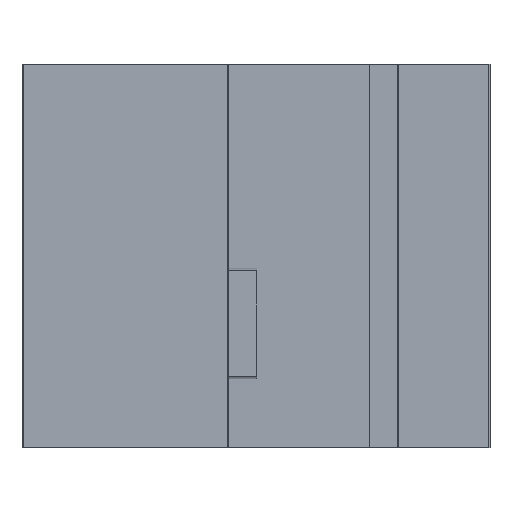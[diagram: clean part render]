
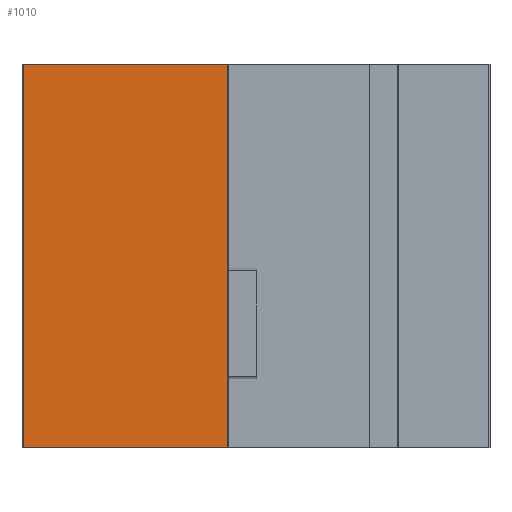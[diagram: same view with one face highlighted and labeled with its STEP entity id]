
A CAD part, front view. The second image highlights one B-rep face of the part: STEP entity #1010.
In plain terms, the highlighted planar face has unit normal (0, -1, 0).
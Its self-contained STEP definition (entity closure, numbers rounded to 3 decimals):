
#662 = EDGE_CURVE( '', #1132, #1310, #1839, .T. );
#726 = EDGE_CURVE( '', #1310, #1366, #1908, .T. );
#1010 = ADVANCED_FACE( '', ( #2224 ), #2225, .T. );
#1132 = VERTEX_POINT( '', #2362 );
#1280 = EDGE_CURVE( '', #1132, #1676, #2537, .T. );
#1310 = VERTEX_POINT( '', #2571 );
#1316 = EDGE_CURVE( '', #1676, #1366, #2580, .T. );
#1366 = VERTEX_POINT( '', #2639 );
#1676 = VERTEX_POINT( '', #2981 );
#1839 = LINE( '', #3173, #3174 );
#1908 = LINE( '', #3274, #3275 );
#2224 = FACE_OUTER_BOUND( '', #3698, .T. );
#2225 = PLANE( '', #3699 );
#2362 = CARTESIAN_POINT( '', ( -25.7, 0., 0. ) );
#2537 = LINE( '', #4123, #4124 );
#2571 = CARTESIAN_POINT( '', ( -25.7, 0., -34. ) );
#2580 = LINE( '', #4182, #4183 );
#2639 = CARTESIAN_POINT( '', ( -7.6, 0., -34. ) );
#2981 = CARTESIAN_POINT( '', ( -7.6, 0., 0. ) );
#3173 = CARTESIAN_POINT( '', ( -25.7, 0., 0. ) );
#3174 = VECTOR( '', #4898, 1. );
#3274 = CARTESIAN_POINT( '', ( -25.7, 0., -34. ) );
#3275 = VECTOR( '', #4960, 1. );
#3698 = EDGE_LOOP( '', ( #5312, #5313, #5314, #5315 ) );
#3699 = AXIS2_PLACEMENT_3D( '', #5316, #5317, #5318 );
#4123 = CARTESIAN_POINT( '', ( -25.7, 0., 0. ) );
#4124 = VECTOR( '', #5720, 1. );
#4182 = CARTESIAN_POINT( '', ( -7.6, 0., 0. ) );
#4183 = VECTOR( '', #5783, 1. );
#4898 = DIRECTION( '', ( 0., 0., -1. ) );
#4960 = DIRECTION( '', ( 1., 0., 0. ) );
#5312 = ORIENTED_EDGE( '', *, *, #726, .T. );
#5313 = ORIENTED_EDGE( '', *, *, #1316, .F. );
#5314 = ORIENTED_EDGE( '', *, *, #1280, .F. );
#5315 = ORIENTED_EDGE( '', *, *, #662, .T. );
#5316 = CARTESIAN_POINT( '', ( -25.7, 0., 0. ) );
#5317 = DIRECTION( '', ( 0., -1., 0. ) );
#5318 = DIRECTION( '', ( -1., 0., 0. ) );
#5720 = DIRECTION( '', ( 1., 0., 0. ) );
#5783 = DIRECTION( '', ( 0., 0., -1. ) );
